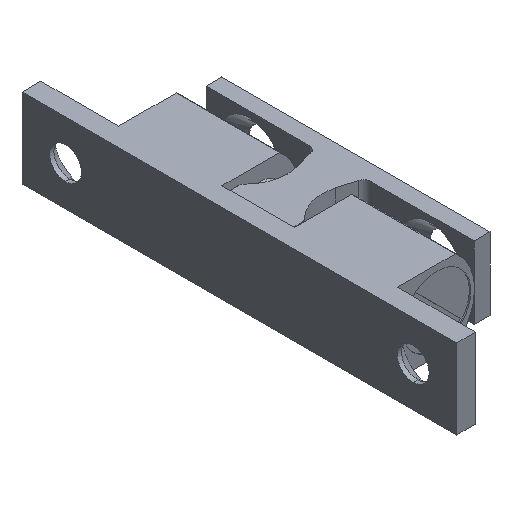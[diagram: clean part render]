
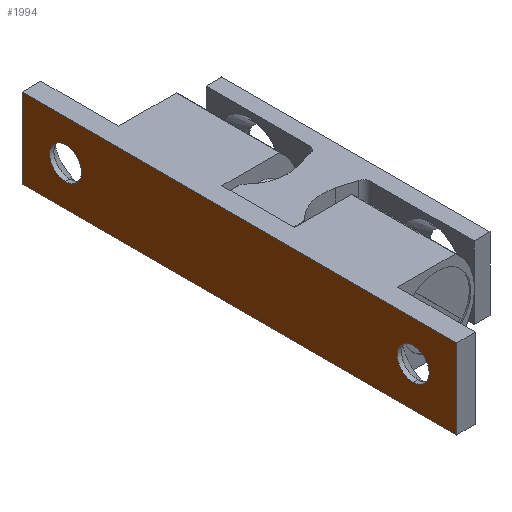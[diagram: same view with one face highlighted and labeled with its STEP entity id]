
A CAD part, isometric view. The second image highlights one B-rep face of the part: STEP entity #1994.
In plain terms, the highlighted planar face has unit normal (-1, 0, 0) as drawn and (0, -1, 0) by its records, which use the part's own axes.
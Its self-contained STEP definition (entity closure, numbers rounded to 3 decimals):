
#24 = ORIENTED_EDGE ( 'NONE', *, *, #1713, .F. ) ;
#42 = ORIENTED_EDGE ( 'NONE', *, *, #2115, .F. ) ;
#56 = LINE ( 'NONE', #817, #1096 ) ;
#71 = AXIS2_PLACEMENT_3D ( 'NONE', #1378, #141, #1628 ) ;
#81 = EDGE_CURVE ( 'NONE', #1406, #551, #1226, .T. ) ;
#141 = DIRECTION ( 'NONE',  ( 0., -1., 0. ) ) ;
#145 = CARTESIAN_POINT ( 'NONE',  ( 24., 0., 0. ) ) ;
#190 = CARTESIAN_POINT ( 'NONE',  ( -30., 0., 0. ) ) ;
#244 = CARTESIAN_POINT ( 'NONE',  ( 24., 0., 0. ) ) ;
#249 = CARTESIAN_POINT ( 'NONE',  ( 30., 0., 0. ) ) ;
#256 = CARTESIAN_POINT ( 'NONE',  ( -30., 0., 5.5 ) ) ;
#267 = CARTESIAN_POINT ( 'NONE',  ( 0., 0., -5.5 ) ) ;
#350 = DIRECTION ( 'NONE',  ( 0., 0., 1. ) ) ;
#371 = EDGE_CURVE ( 'NONE', #1623, #745, #1056, .T. ) ;
#379 = AXIS2_PLACEMENT_3D ( 'NONE', #145, #1596, #350 ) ;
#388 = ORIENTED_EDGE ( 'NONE', *, *, #371, .F. ) ;
#402 = AXIS2_PLACEMENT_3D ( 'NONE', #244, #1686, #614 ) ;
#536 = VERTEX_POINT ( 'NONE', #1079 ) ;
#551 = VERTEX_POINT ( 'NONE', #256 ) ;
#614 = DIRECTION ( 'NONE',  ( 0., 0., 1. ) ) ;
#621 = ORIENTED_EDGE ( 'NONE', *, *, #2216, .F. ) ;
#649 = DIRECTION ( 'NONE',  ( 0., 0., 1. ) ) ;
#721 = AXIS2_PLACEMENT_3D ( 'NONE', #2500, #1887, #649 ) ;
#733 = CARTESIAN_POINT ( 'NONE',  ( 24., 0., 2.2 ) ) ;
#745 = VERTEX_POINT ( 'NONE', #887 ) ;
#749 = LINE ( 'NONE', #249, #1293 ) ;
#780 = CIRCLE ( 'NONE', #71, 2.2 ) ;
#782 = DIRECTION ( 'NONE',  ( 0., 0., 1. ) ) ;
#817 = CARTESIAN_POINT ( 'NONE',  ( 0., 0., 5.5 ) ) ;
#887 = CARTESIAN_POINT ( 'NONE',  ( 24., 0., -2.2 ) ) ;
#909 = ORIENTED_EDGE ( 'NONE', *, *, #1383, .F. ) ;
#1024 = EDGE_CURVE ( 'NONE', #2463, #2581, #749, .T. ) ;
#1056 = CIRCLE ( 'NONE', #402, 2.2 ) ;
#1079 = CARTESIAN_POINT ( 'NONE',  ( -24., 0., 2.2 ) ) ;
#1096 = VECTOR ( 'NONE', #2682, 1000. ) ;
#1115 = EDGE_CURVE ( 'NONE', #551, #2463, #56, .T. ) ;
#1127 = DIRECTION ( 'NONE',  ( 0., -1., 0. ) ) ;
#1226 = LINE ( 'NONE', #190, #2260 ) ;
#1260 = FACE_OUTER_BOUND ( 'NONE', #2199, .T. ) ;
#1293 = VECTOR ( 'NONE', #2303, 1000. ) ;
#1369 = CIRCLE ( 'NONE', #1683, 2.2 ) ;
#1378 = CARTESIAN_POINT ( 'NONE',  ( -24., 0., 0. ) ) ;
#1383 = EDGE_CURVE ( 'NONE', #745, #1623, #1888, .T. ) ;
#1406 = VERTEX_POINT ( 'NONE', #2215 ) ;
#1587 = ORIENTED_EDGE ( 'NONE', *, *, #81, .F. ) ;
#1596 = DIRECTION ( 'NONE',  ( 0., -1., 0. ) ) ;
#1623 = VERTEX_POINT ( 'NONE', #733 ) ;
#1628 = DIRECTION ( 'NONE',  ( 0., 0., 1. ) ) ;
#1657 = EDGE_LOOP ( 'NONE', ( #24, #621 ) ) ;
#1683 = AXIS2_PLACEMENT_3D ( 'NONE', #2363, #1127, #2567 ) ;
#1685 = PLANE ( 'NONE',  #721 ) ;
#1686 = DIRECTION ( 'NONE',  ( 0., -1., 0. ) ) ;
#1713 = EDGE_CURVE ( 'NONE', #536, #1830, #780, .T. ) ;
#1753 = FACE_BOUND ( 'NONE', #2304, .T. ) ;
#1774 = CARTESIAN_POINT ( 'NONE',  ( -24., 0., -2.2 ) ) ;
#1830 = VERTEX_POINT ( 'NONE', #1774 ) ;
#1887 = DIRECTION ( 'NONE',  ( 0., 1., 0. ) ) ;
#1888 = CIRCLE ( 'NONE', #379, 2.2 ) ;
#1994 = ADVANCED_FACE ( 'NONE', ( #1260, #2295, #1753 ), #1685, .F. ) ;
#2082 = ORIENTED_EDGE ( 'NONE', *, *, #1115, .F. ) ;
#2115 = EDGE_CURVE ( 'NONE', #2581, #1406, #2659, .T. ) ;
#2199 = EDGE_LOOP ( 'NONE', ( #42, #2243, #2082, #1587 ) ) ;
#2215 = CARTESIAN_POINT ( 'NONE',  ( -30., 0., -5.5 ) ) ;
#2216 = EDGE_CURVE ( 'NONE', #1830, #536, #1369, .T. ) ;
#2243 = ORIENTED_EDGE ( 'NONE', *, *, #1024, .F. ) ;
#2260 = VECTOR ( 'NONE', #782, 1000. ) ;
#2295 = FACE_BOUND ( 'NONE', #1657, .T. ) ;
#2303 = DIRECTION ( 'NONE',  ( 0., 0., -1. ) ) ;
#2304 = EDGE_LOOP ( 'NONE', ( #388, #909 ) ) ;
#2335 = DIRECTION ( 'NONE',  ( -1., 0., 0. ) ) ;
#2361 = CARTESIAN_POINT ( 'NONE',  ( 30., 0., 5.5 ) ) ;
#2363 = CARTESIAN_POINT ( 'NONE',  ( -24., 0., 0. ) ) ;
#2463 = VERTEX_POINT ( 'NONE', #2361 ) ;
#2500 = CARTESIAN_POINT ( 'NONE',  ( 0., 0., 0. ) ) ;
#2567 = DIRECTION ( 'NONE',  ( 0., 0., 1. ) ) ;
#2581 = VERTEX_POINT ( 'NONE', #2583 ) ;
#2583 = CARTESIAN_POINT ( 'NONE',  ( 30., 0., -5.5 ) ) ;
#2589 = VECTOR ( 'NONE', #2335, 1000. ) ;
#2659 = LINE ( 'NONE', #267, #2589 ) ;
#2682 = DIRECTION ( 'NONE',  ( 1., 0., 0. ) ) ;
